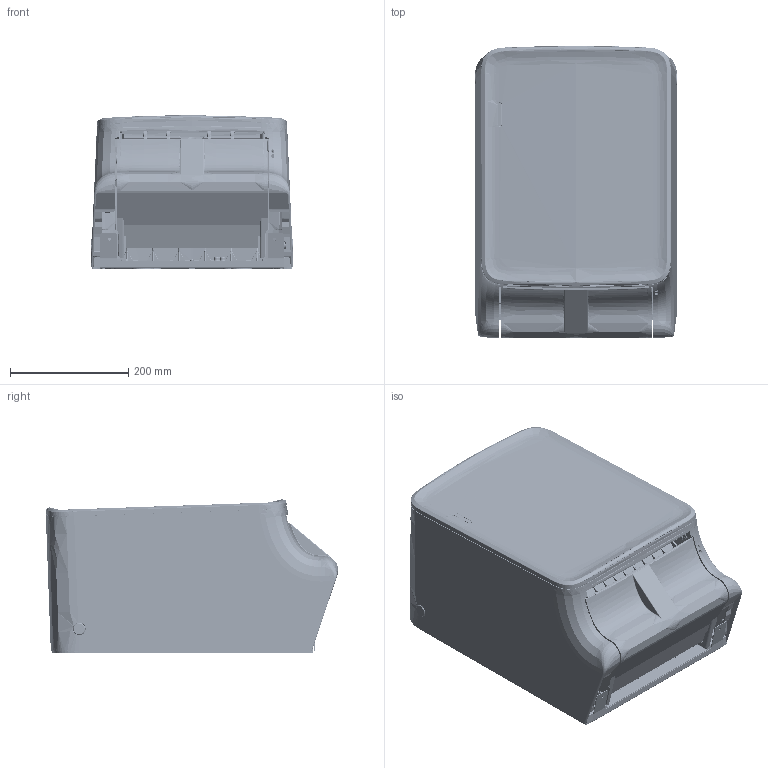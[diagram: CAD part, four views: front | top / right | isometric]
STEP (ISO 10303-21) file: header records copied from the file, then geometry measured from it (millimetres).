
FILE_DESCRIPTION (( 'STEP AP214' ), '1' );
FILE_NAME ('PureLine Dry_final.STEP', '2023-02-28T14:43:42', ( '' ), ( '' ), 'SwSTEP 2.0', 'SolidWorks 2023', '' );
FILE_SCHEMA (( 'AUTOMOTIVE_DESIGN' ));
Length unit declared in the file: millimetre
Products named in the file (27): E22094_HAUBE_KPL_APOLLO_DRY_AF3_1.stp.STEP; DIN934M6_1.stp.STEP; 109286-000-00_1.stp.STEP; 031830-000-00_1.stp.STEP; 107167-000-00.stp.STEP; 107176-000-00.stp.STEP; 109280-000-00_Apollo_Dry_1.stp.STEP; 109288-000-00_1.stp.STEP; E22094_RUECKWAND_KPL_APOLLO_DRY_1.stp.STEP; 107172-000-00_1.stp.STEP; 109285-000-00_1.stp.STEP; PureLine Dry_1.STEP; 109284-000-00_1.stp.STEP; Z-22035_VERSTAERKUNGSBLECH_1.stp.STEP; E22094_HALTER_1.stp.STEP; 107162-000-00_AF3_1.stp.STEP; E22094_SCHWENKMODUL_KPL_1.stp.STEP; 109283-000-00_1.stp.STEP; E22094_KLEMMBLECH_1.stp.STEP; 107271-000-00_1.stp.STEP; 107163-000-00.stp.STEP; PureLine Dry_final; E22094_BK-3216_RUECKWANDVERST_1.stp.STEP; 109294-000-00_1.stp.STEP; E22094_BK-3495_BLOCKIERSCHUTZ_1.stp.STEP; 109296-000-00_1.stp.STEP; 107267-000-00_AF2_1.stp.STEP
Assembly tree (43 placements, depth 6):
  PureLine Dry_final
    PureLine Dry_1.STEP
      109280-000-00_Apollo_Dry_1.stp.STEP
        E22094_RUECKWAND_KPL_APOLLO_DRY_1.stp.STEP
          109288-000-00_1.stp.STEP
          E22094_HALTER_1.stp.STEP  x4
          E22094_BK-3216_RUECKWANDVERST_1.stp.STEP  x4
          DIN934M6_1.stp.STEP  x4
        E22094_HAUBE_KPL_APOLLO_DRY_AF3_1.stp.STEP
          107162-000-00_AF3_1.stp.STEP
            107163-000-00.stp.STEP
            107167-000-00.stp.STEP
            107172-000-00_1.stp.STEP
            107176-000-00.stp.STEP
          107267-000-00_AF2_1.stp.STEP
            107163-000-00.stp.STEP
            107167-000-00.stp.STEP
            107271-000-00_1.stp.STEP
            107176-000-00.stp.STEP
          109284-000-00_1.stp.STEP
          109285-000-00_1.stp.STEP  x2
          109286-000-00_1.stp.STEP  x2
          E22094_KLEMMBLECH_1.stp.STEP  x2
          109283-000-00_1.stp.STEP
          E22094_BK-3495_BLOCKIERSCHUTZ_1.stp.STEP
          109296-000-00_1.stp.STEP  x2
          031830-000-00_1.stp.STEP  x2
        E22094_SCHWENKMODUL_KPL_1.stp.STEP
          109294-000-00_1.stp.STEP
        Z-22035_VERSTAERKUNGSBLECH_1.stp.STEP
Bounding box: 342.19 x 493.88 x 259.54 mm (x, y, z)
Volume: 3516068.8 mm3; surface area: 2451982.1 mm2
Topology: 36 solids, 36 shells, 14957 faces, 39007 edges, 24386 vertices
Faces by surface type: bspline 5087, plane 4926, cylinder 3537, cone 594, sphere 511, torus 302
Entity records: 627693 total; most frequent: CARTESIAN_POINT 350670, ORIENTED_EDGE 66154, DIRECTION 44463, EDGE_CURVE 33077, VERTEX_POINT 20609, LINE 15367, VECTOR 15367, AXIS2_PLACEMENT_3D 14548
